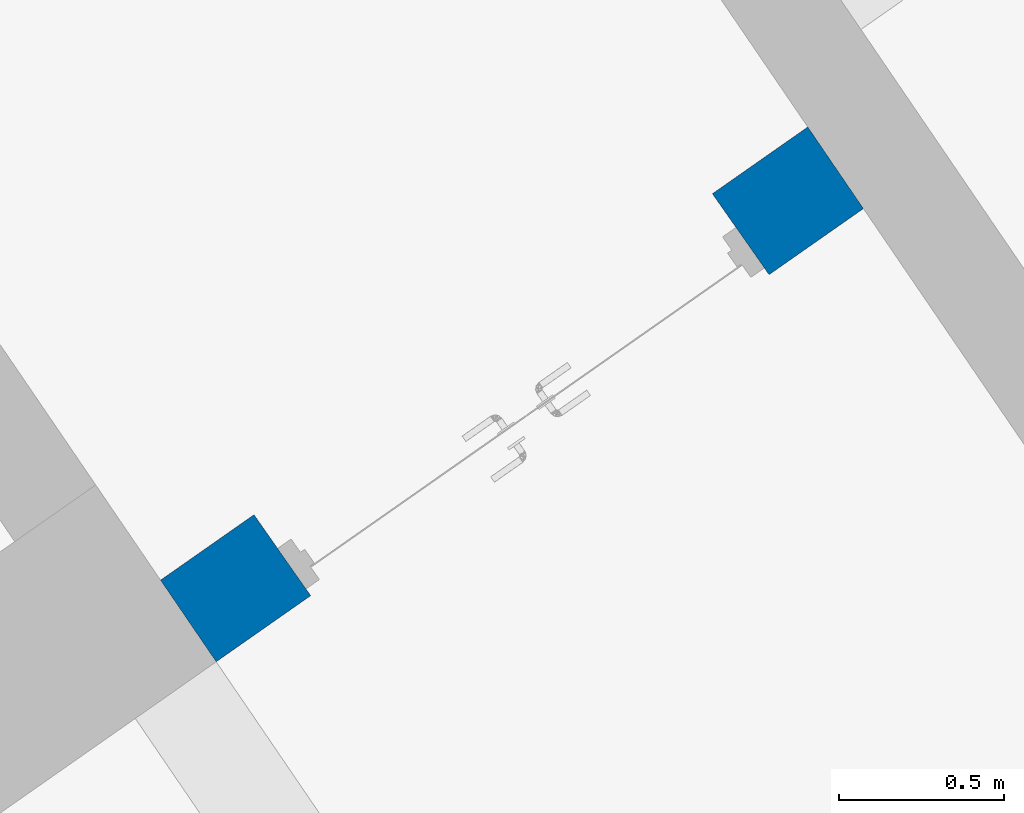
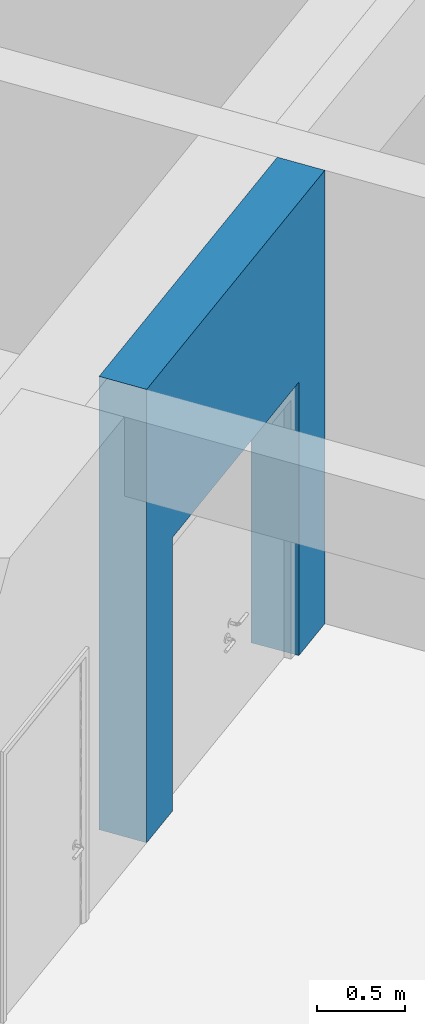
# One storey, part 25 of 112: 1 wall, 1 opening.
"""IFC2X3 building model written with IfcOpenShell, lengths in millimetres."""

from ifc_helpers import new_model, entity, si_unit, converted_unit, derived_unit, direction, frame, frame_2d, origin, place, context, subcontext, project, spatial, polyline, rectangle, outline, extrude, material, layer, layer_set, layer_usage, type_object, element, save


model = new_model("IFC2X3")

# Units and contexts
model_context = context("Model", 3, precision=0.01, world=origin(), true_north=direction((6.123031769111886e-17, 1.0)))
body_context = subcontext(model_context, "Body", "Model", "MODEL_VIEW")
ifc_project = project(units=[si_unit("LENGTHUNIT", "METRE", prefix="MILLI"), si_unit("AREAUNIT", "SQUARE_METRE"), si_unit("VOLUMEUNIT", "CUBIC_METRE"), converted_unit("PLANEANGLEUNIT", "DEGREE", entity("IfcRatioMeasure", 0.017453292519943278), si_unit("PLANEANGLEUNIT", "RADIAN"), dimensions=[0, 0, 0, 0, 0, 0, 0]), si_unit("MASSUNIT", "GRAM", prefix="KILO"), derived_unit("MASSDENSITYUNIT", [(si_unit("MASSUNIT", "GRAM", prefix="KILO"), 1), (si_unit("LENGTHUNIT", "METRE"), -3)]), derived_unit("MOMENTOFINERTIAUNIT", [(si_unit("LENGTHUNIT", "METRE"), 4)]), si_unit("TIMEUNIT", "SECOND"), si_unit("FREQUENCYUNIT", "HERTZ"), si_unit("THERMODYNAMICTEMPERATUREUNIT", "DEGREE_CELSIUS"), derived_unit("THERMALTRANSMITTANCEUNIT", [(si_unit("MASSUNIT", "GRAM", prefix="KILO"), 1), (si_unit("THERMODYNAMICTEMPERATUREUNIT", "KELVIN"), -1), (si_unit("TIMEUNIT", "SECOND"), -3)]), derived_unit("THERMALCONDUCTANCEUNIT", [(si_unit("MASSUNIT", "GRAM", prefix="KILO"), 1), (si_unit("LENGTHUNIT", "METRE"), 1), (si_unit("THERMODYNAMICTEMPERATUREUNIT", "KELVIN"), -1), (si_unit("TIMEUNIT", "SECOND"), -3)]), derived_unit("VOLUMETRICFLOWRATEUNIT", [(si_unit("LENGTHUNIT", "METRE"), 3), (si_unit("TIMEUNIT", "SECOND"), -1)]), derived_unit("MASSFLOWRATEUNIT", [(si_unit("MASSUNIT", "GRAM", prefix="KILO"), 1), (si_unit("TIMEUNIT", "SECOND"), -1)]), derived_unit("ROTATIONALFREQUENCYUNIT", [(si_unit("TIMEUNIT", "SECOND"), -1)]), si_unit("ELECTRICCURRENTUNIT", "AMPERE"), si_unit("ELECTRICVOLTAGEUNIT", "VOLT"), si_unit("POWERUNIT", "WATT"), converted_unit("FORCEUNIT", "KIP", entity("IfcRatioMeasure", 2.088543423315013e-05), si_unit("FORCEUNIT", "NEWTON"), dimensions=[1, 1, -2, 0, 0, 0, 0]), si_unit("ILLUMINANCEUNIT", "LUX"), si_unit("LUMINOUSFLUXUNIT", "LUMEN"), si_unit("LUMINOUSINTENSITYUNIT", "CANDELA"), derived_unit("USERDEFINED", [(si_unit("MASSUNIT", "GRAM", prefix="KILO"), -1), (si_unit("LENGTHUNIT", "METRE"), -2), (si_unit("TIMEUNIT", "SECOND"), 3), (si_unit("LUMINOUSFLUXUNIT", "LUMEN"), 1)]), derived_unit("USERDEFINED", [(si_unit("MASSUNIT", "GRAM", prefix="KILO"), 1), (si_unit("LENGTHUNIT", "METRE"), 3), (si_unit("TIMEUNIT", "SECOND"), -3), (si_unit("ELECTRICCURRENTUNIT", "AMPERE"), -2)]), derived_unit("USERDEFINED", [(si_unit("LENGTHUNIT", "METRE"), 2), (si_unit("TIMEUNIT", "SECOND"), -2)]), derived_unit("SOUNDPOWERUNIT", [(si_unit("MASSUNIT", "GRAM", prefix="KILO"), 1), (si_unit("LENGTHUNIT", "METRE"), 2), (si_unit("TIMEUNIT", "SECOND"), -3)]), derived_unit("SOUNDPRESSUREUNIT", [(si_unit("MASSUNIT", "GRAM", prefix="KILO"), 1), (si_unit("LENGTHUNIT", "METRE"), -1), (si_unit("TIMEUNIT", "SECOND"), -2)]), derived_unit("LINEARVELOCITYUNIT", [(si_unit("LENGTHUNIT", "METRE"), 1), (si_unit("TIMEUNIT", "SECOND"), -1)]), si_unit("PRESSUREUNIT", "PASCAL"), derived_unit("USERDEFINED", [(si_unit("LENGTHUNIT", "METRE"), -2), (si_unit("MASSUNIT", "GRAM", prefix="KILO"), 1), (si_unit("TIMEUNIT", "SECOND"), -2)]), derived_unit("LINEARFORCEUNIT", [(si_unit("MASSUNIT", "GRAM", prefix="KILO"), 1), (si_unit("LENGTHUNIT", "METRE"), 1), (si_unit("TIMEUNIT", "SECOND"), -2), (si_unit("LENGTHUNIT", "METRE"), -1)]), derived_unit("PLANARFORCEUNIT", [(si_unit("MASSUNIT", "GRAM", prefix="KILO"), 1), (si_unit("LENGTHUNIT", "METRE"), 1), (si_unit("TIMEUNIT", "SECOND"), -2), (si_unit("LENGTHUNIT", "METRE"), -2)]), derived_unit("SPECIFICHEATCAPACITYUNIT", [(si_unit("LENGTHUNIT", "METRE"), 2), (si_unit("TIMEUNIT", "SECOND"), -2), (si_unit("THERMODYNAMICTEMPERATUREUNIT", "KELVIN"), -1)]), derived_unit("VAPORPERMEABILITYUNIT", [(si_unit("TIMEUNIT", "SECOND"), 1), (si_unit("LENGTHUNIT", "METRE"), -1)]), derived_unit("DYNAMICVISCOSITYUNIT", [(si_unit("MASSUNIT", "GRAM", prefix="KILO"), 1), (si_unit("LENGTHUNIT", "METRE"), -1), (si_unit("TIMEUNIT", "SECOND"), -1)]), derived_unit("THERMALEXPANSIONCOEFFICIENTUNIT", [(si_unit("THERMODYNAMICTEMPERATUREUNIT", "KELVIN"), -1)])], contexts=[model_context])

# Site, building, storey
site_placement = place(None, frame((0.0, 0.0, 0.0), z_axis=(0.0, 0.0, 1.0), x_axis=(0.8191520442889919, 0.5735764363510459, 0.0)))
site = spatial("IfcSite", under=ifc_project, at=site_placement, Name="Default", CompositionType="ELEMENT")
building_placement = place(site_placement, origin())
building = spatial("IfcBuilding", under=site, at=building_placement, CompositionType="ELEMENT")
storey_placement = place(building_placement, frame((0.0, 0.0, -3600.0)))
storey = spatial("IfcBuildingStorey", under=building, at=storey_placement, Name="0.UG -3.60", CompositionType="ELEMENT", Elevation=-3600.0000000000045)

# Wall, opening
ifc_material = material(Name="Analytical Wall Surface_CJC")
ifc_layer = layer(ifc_material, 300.0)
ifc_layer_set = layer_set([ifc_layer], Name="Basic Wall:Wand_Innen_30")
ifc_layer_usage = layer_usage(ifc_layer_set, "AXIS2", "POSITIVE", -150.0)
wall_type = type_object("IfcWallType", Name="Basic Wall:Wand_Innen_30", PredefinedType="STANDARD", material=ifc_layer_set)
wall_placement = place(storey_placement, frame((-216891.43561058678, 84921.3589143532, 300.0)))
wall = element("IfcWallStandardCase", 1, at=wall_placement, inside=storey, type_object=wall_type, material=ifc_layer_usage, Name="Basic Wall:Wand_Innen_30", ObjectType="Basic Wall:Wand_Innen_30", context=body_context, shape_type="SweptSolid", body=[
    extrude(outline(polyline([(0.0, -150.0), (2400.194609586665, -150.0), (2404.013795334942, 150.0), (3.8191857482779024, 150.0), (3.182654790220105, 100.0), (0.0, -150.0)])), origin(), (0.0, 0.0, 1.0), 3150.0),
])
opening_placement = place(wall_placement, frame((2050.2510625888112, 150.0, -300.0)))
element("IfcOpeningElement", 2, at=opening_placement, cuts=wall, Name="M_Door-Passage-Double-Flush:160x210:1", ObjectType="Opening", context=body_context, shape_type="SweptSolid", body=[
    extrude(rectangle(XDim=2200.0, YDim=1699.9999999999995, at=frame_2d((1100.0, 849.9999999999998), x_axis=(1.0, 0.0))), frame((0.0, 0.0, 0.0), z_axis=(0.0, -1.0, 0.0), x_axis=(0.0, 0.0, 1.0)), (0.0, 0.0, 1.0), 300.0),
])

save(model, "model.ifc")
